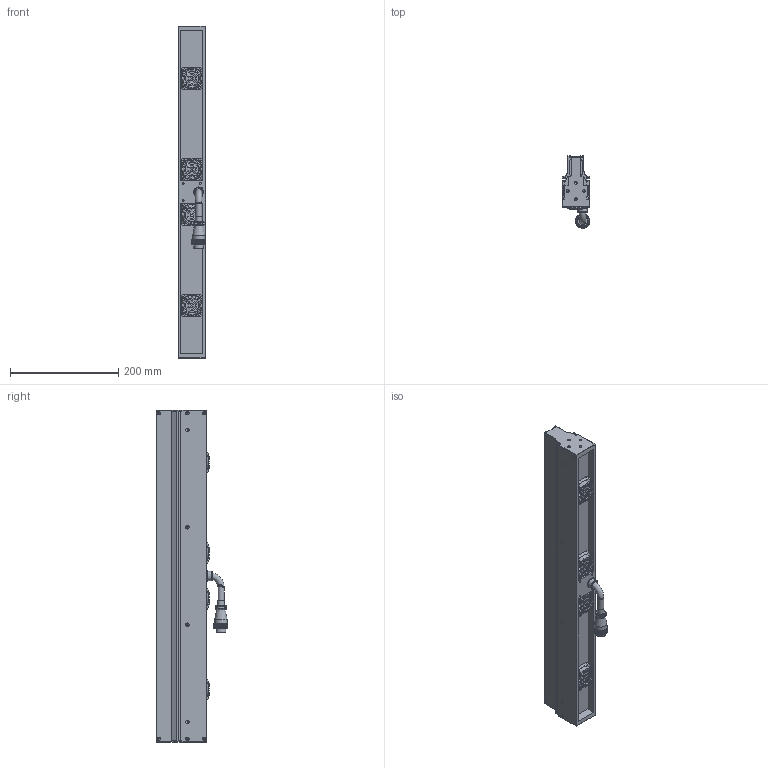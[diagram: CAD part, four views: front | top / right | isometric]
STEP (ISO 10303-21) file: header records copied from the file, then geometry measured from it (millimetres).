
FILE_DESCRIPTION (( 'STEP AP203' ), '1' );
FILE_NAME ('OPT-LSS614-R-V3.1U尨砩芞.STEP', '2025-01-21T06:16:53', ( 'USER' ), ( '' ), 'SwSTEP 2.0', 'SolidWorks 2016', '' );
FILE_SCHEMA (( 'CONFIG_CONTROL_DESIGN' ));
Length unit declared in the file: millimetre
Products named in the file (2): OPT-LSS614-R-V3.1U尨砩芞
Bounding box: 50.6 x 133 x 614 mm (x, y, z)
Volume: 2062099.8 mm3; surface area: 336637.3 mm2
Topology: 22 solids, 36 shells, 2782 faces, 7105 edges, 4493 vertices
Faces by surface type: bspline 1051, cylinder 829, plane 615, torus 232, cone 55
Full cylindrical faces by diameter (mm): 1 x2, 1.1 x2, 1.4 x2, 1.6 x16, 2 x4, 2.5 x24, 3 x4, 3.2 x20, 3.4 x20, 3.5 x10, 5 x8, 6.2 x16, 8 x1, 11.6 x1, 11.7 x3, 12 x1, 15 x1, 15.9 x1, 17.5 x1, 18 x1, 18.5 x1, 22.8 x1, 24 x1, 24.8 x4, 38 x4
Entity records: 104392 total; most frequent: CARTESIAN_POINT 49145, ORIENTED_EDGE 13442, DIRECTION 7401, EDGE_CURVE 6721, VERTEX_POINT 4406, B_SPLINE_CURVE_WITH_KNOTS 4077, EDGE_LOOP 3223, AXIS2_PLACEMENT_3D 3032
